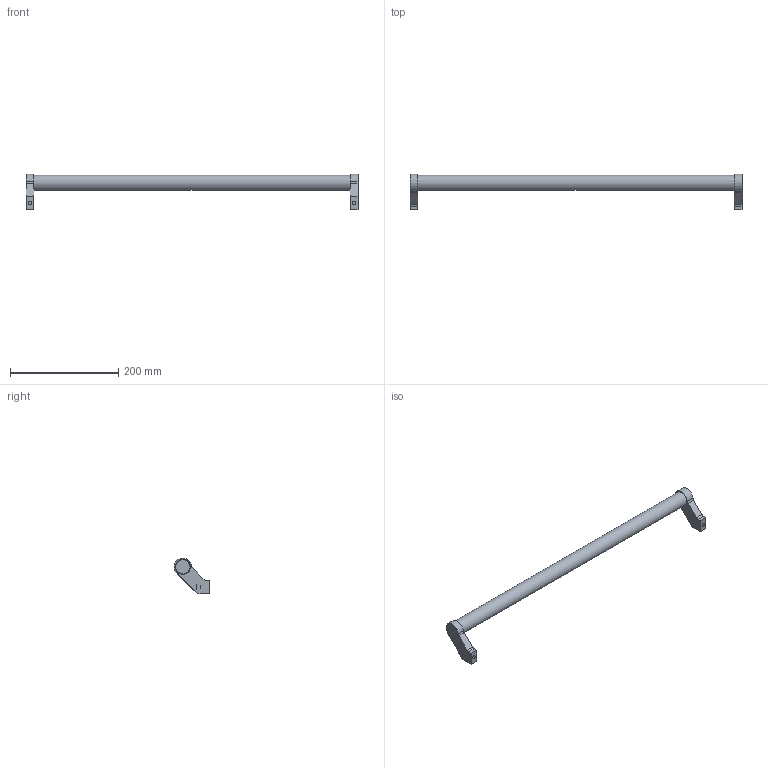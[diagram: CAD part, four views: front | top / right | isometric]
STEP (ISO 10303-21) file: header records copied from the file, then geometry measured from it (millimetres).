
FILE_DESCRIPTION( ( 'STEP AP203' ), '1' );
FILE_NAME( 'C:/Temp/Ganter_Step_05_03_2020/data/1_2/gn333/Tubular handle GN 333-28-600-B-SW.stp', '2020-03-05T10:16:35', ( 'License CC BY-ND 4.0' ), ( 'CADENAS' ), ' ', 'PARTsolutions', ' ' );
FILE_SCHEMA( ( 'CONFIG_CONTROL_DESIGN' ) );
Length unit declared in the file: millimetre
Products named in the file (1): _Tubular handle GN 333-28-600-B-SW
Bounding box: 614 x 65.95 x 65.97 mm (x, y, z)
Volume: 420128.4 mm3; surface area: 68405.5 mm2
Topology: 1 solids, 1 shells, 53 faces, 115 edges, 76 vertices
Faces by surface type: plane 32, cylinder 19, torus 2
Full cylindrical faces by diameter (mm): 6.5 x2, 11 x2, 11.4 x2, 12 x2, 28 x3
Entity records: 1424 total; most frequent: CARTESIAN_POINT 272, DIRECTION 240, ORIENTED_EDGE 196, EDGE_CURVE 98, AXIS2_PLACEMENT_3D 96, EDGE_LOOP 76, VERTEX_POINT 70, FACE_OUTER_BOUND 64
